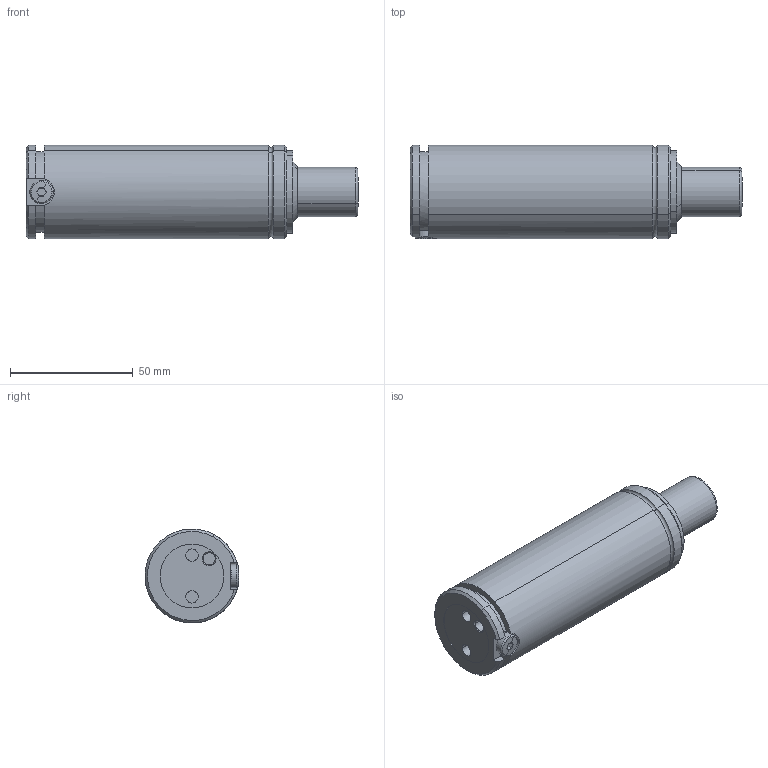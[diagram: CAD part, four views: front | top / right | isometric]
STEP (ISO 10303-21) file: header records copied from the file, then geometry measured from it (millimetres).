
FILE_DESCRIPTION(('CATIA V5 STEP Exchange'),'2;1');
FILE_NAME('W:\CATALOGO GENERAL 2015\CATIA\TPFS1000x25\TPFS 1000x25.stp','2017-11-21T12:30:51+00:00',('none'),('none'),'CATIA Version 5 Release 17 (IN-10)','CATIA V5 STEP AP203','none');
FILE_SCHEMA(('CONFIG_CONTROL_DESIGN'));
Length unit declared in the file: millimetre
Products named in the file (1): TPFS 1000x25
Assembly tree (4 placements, depth 2):
  TPFS 1000x25
    #56
    #1122
    #1312
    #1552
Bounding box: 135 x 38.19 x 38.19 mm (x, y, z)
Volume: 138077.7 mm3; surface area: 22024.5 mm2
Topology: 4 solids, 4 shells, 118 faces, 265 edges, 162 vertices
Faces by surface type: cylinder 31, cone 27, torus 26, plane 26, bspline 8
Entity records: 3389 total; most frequent: CARTESIAN_POINT 886, ORIENTED_EDGE 530, DIRECTION 397, EDGE_CURVE 265, AXIS2_PLACEMENT_3D 230, VERTEX_POINT 162, CIRCLE 143, EDGE_LOOP 127
